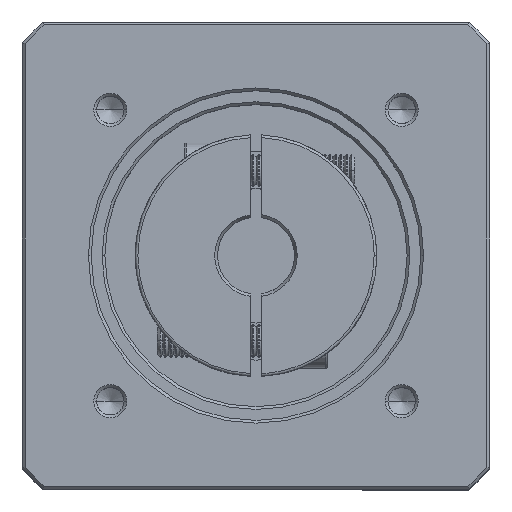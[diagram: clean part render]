
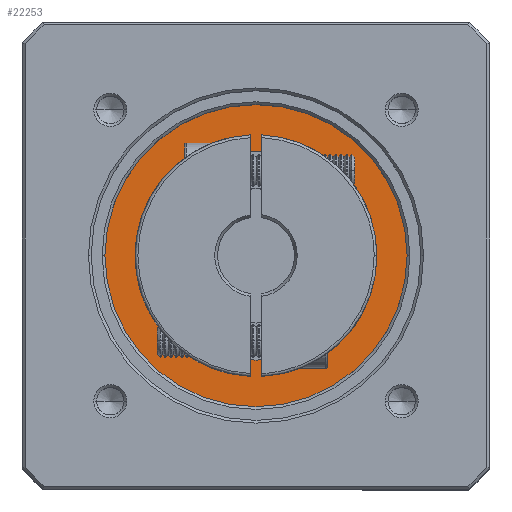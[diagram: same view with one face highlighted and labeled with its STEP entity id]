
A CAD part, top view. The second image highlights one B-rep face of the part: STEP entity #22253.
In plain terms, the highlighted planar face has unit normal (0, 0, 1).
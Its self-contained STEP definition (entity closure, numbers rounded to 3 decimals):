
#3252 = VERTEX_POINT ( 'NONE', #13381 ) ;
#4353 = VERTEX_POINT ( 'NONE', #19351 ) ;
#11801 = EDGE_LOOP ( 'NONE', ( #49451, #55259 ) ) ;
#13381 = CARTESIAN_POINT ( 'NONE',  ( -112.514, 27.386, 11.447 ) ) ;
#13546 = EDGE_CURVE ( 'NONE', #4353, #3252, #36497, .T. ) ;
#14699 = AXIS2_PLACEMENT_3D ( 'NONE', #77965, #25405, #86710 ) ;
#16159 = CARTESIAN_POINT ( 'NONE',  ( -93.514, 27.386, 11.447 ) ) ;
#18657 = DIRECTION ( 'NONE',  ( 0., 0., -1. ) ) ;
#19351 = CARTESIAN_POINT ( 'NONE',  ( -74.514, 27.386, 11.447 ) ) ;
#22109 = DIRECTION ( 'NONE',  ( 0., 0., 1. ) ) ;
#22253 = ADVANCED_FACE ( 'NONE', ( #113017, #93257 ), #85995, .T. ) ;
#25103 = DIRECTION ( 'NONE',  ( -1., 0., 0. ) ) ;
#25405 = DIRECTION ( 'NONE',  ( 0., 0., 1. ) ) ;
#27008 = CIRCLE ( 'NONE', #54319, 19. ) ;
#34919 = CARTESIAN_POINT ( 'NONE',  ( -66.014, 27.386, 11.447 ) ) ;
#36497 = CIRCLE ( 'NONE', #102743, 19. ) ;
#39504 = EDGE_LOOP ( 'NONE', ( #41504, #47443 ) ) ;
#41504 = ORIENTED_EDGE ( 'NONE', *, *, #71297, .T. ) ;
#41684 = CARTESIAN_POINT ( 'NONE',  ( -121.014, 27.386, 11.447 ) ) ;
#45111 = AXIS2_PLACEMENT_3D ( 'NONE', #74707, #22109, #83451 ) ;
#47443 = ORIENTED_EDGE ( 'NONE', *, *, #101478, .T. ) ;
#49451 = ORIENTED_EDGE ( 'NONE', *, *, #85493, .T. ) ;
#52438 = DIRECTION ( 'NONE',  ( 0., 0., -1. ) ) ;
#54319 = AXIS2_PLACEMENT_3D ( 'NONE', #71367, #18657, #80122 ) ;
#55259 = ORIENTED_EDGE ( 'NONE', *, *, #13546, .T. ) ;
#57710 = AXIS2_PLACEMENT_3D ( 'NONE', #16159, #77654, #25103 ) ;
#63663 = CIRCLE ( 'NONE', #57710, 27.5 ) ;
#71297 = EDGE_CURVE ( 'NONE', #100385, #100823, #63663, .T. ) ;
#71367 = CARTESIAN_POINT ( 'NONE',  ( -93.514, 27.386, 11.447 ) ) ;
#74707 = CARTESIAN_POINT ( 'NONE',  ( -93.514, 27.386, 11.447 ) ) ;
#77654 = DIRECTION ( 'NONE',  ( 0., 0., 1. ) ) ;
#77965 = CARTESIAN_POINT ( 'NONE',  ( -93.514, 27.386, 11.447 ) ) ;
#80122 = DIRECTION ( 'NONE',  ( -1., 0., 0. ) ) ;
#83451 = DIRECTION ( 'NONE',  ( -1., 0., 0. ) ) ;
#85493 = EDGE_CURVE ( 'NONE', #3252, #4353, #27008, .T. ) ;
#85995 = PLANE ( 'NONE',  #14699 ) ;
#86710 = DIRECTION ( 'NONE',  ( 1., 0., 0. ) ) ;
#90936 = CIRCLE ( 'NONE', #45111, 27.5 ) ;
#93257 = FACE_BOUND ( 'NONE', #11801, .T. ) ;
#100385 = VERTEX_POINT ( 'NONE', #41684 ) ;
#100823 = VERTEX_POINT ( 'NONE', #34919 ) ;
#101478 = EDGE_CURVE ( 'NONE', #100823, #100385, #90936, .T. ) ;
#102743 = AXIS2_PLACEMENT_3D ( 'NONE', #104200, #52438, #112651 ) ;
#104200 = CARTESIAN_POINT ( 'NONE',  ( -93.514, 27.386, 11.447 ) ) ;
#112651 = DIRECTION ( 'NONE',  ( -1., 0., 0. ) ) ;
#113017 = FACE_OUTER_BOUND ( 'NONE', #39504, .T. ) ;
